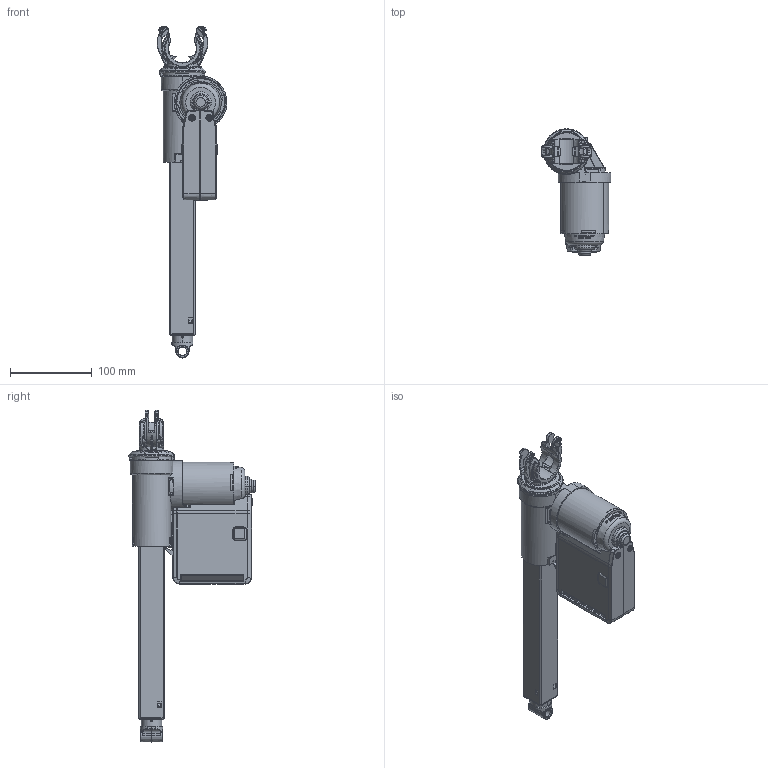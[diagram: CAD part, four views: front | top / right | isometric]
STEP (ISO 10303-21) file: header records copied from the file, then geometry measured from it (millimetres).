
FILE_DESCRIPTION((''),'2;1');
FILE_NAME('1026W4015_ASM','2020-03-31T21:47:56',('ti'),(''),'CREO PARAMETRIC BY PTC INC, 2019344','CREO PARAMETRIC BY PTC INC, 2019344','');
FILE_SCHEMA(('AUTOMOTIVE_DESIGN { 1 0 10303 214 1 1 1 1 }'));
Products named in the file (7): 1026W4016; 1026W4017; 1026W4018; 1026W4020; 1026W4021; 1026W4004; 1026W4015_ASM
Assembly tree (6 placements, depth 2):
  1026W4015_ASM
    1026W4016
    1026W4017
    1026W4018
    1026W4020
    1026W4021
    1026W4004
Bounding box: 85.48 x 154.74 x 405.96 mm (x, y, z)
Volume: 1266026.8 mm3; surface area: 194813 mm2
Topology: 8 solids, 10 shells, 4601 faces, 11881 edges, 7402 vertices
Faces by surface type: plane 2123, cylinder 1007, bspline 626, torus 419, cone 217, sphere 143, extrusion 66
Entity records: 187095 total; most frequent: CARTESIAN_POINT 73179, ORIENTED_EDGE 23654, DIRECTION 19463, EDGE_CURVE 11827, VERTEX_POINT 7402, AXIS2_PLACEMENT_3D 6906, VECTOR 5651, LINE 5585
